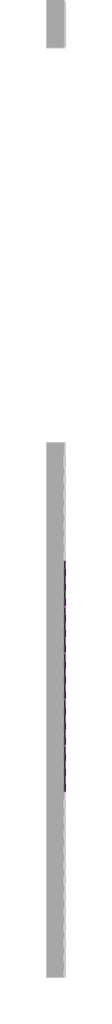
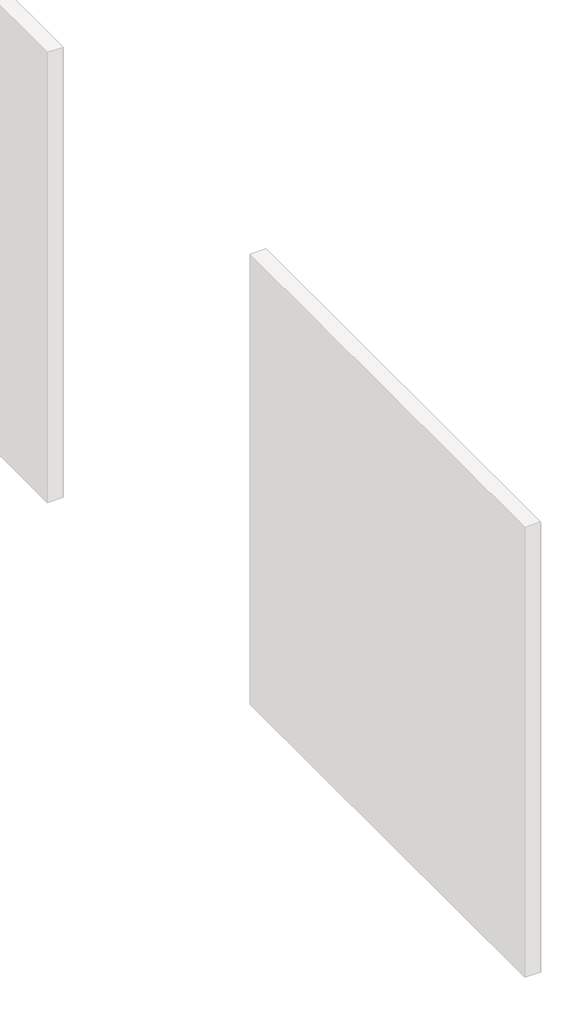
# One storey, part 3 of 45: 147 proxies.
"""IFC4 building model written with IfcOpenShell, lengths in millimetres."""

from ifc_helpers import new_model, si_unit, origin, place, context, project, spatial, transform, mapped, element, save
from components import generic_models_ab0f2c30, generic_models_1527efce

model = new_model("IFC4")

# Units and contexts
model_context = context("Model", 3, world=origin())
ifc_project = project(units=[si_unit("LENGTHUNIT", "METRE", prefix="MILLI")], contexts=[model_context])

# Site, building, storey
site = spatial("IfcSite", under=ifc_project)
building = spatial("IfcBuilding", under=site)
storey = spatial("IfcBuildingStorey", under=building, Name="PORTOBELLO - SHOWROOM", Elevation=0.0)

# Proxies
placement = place(None, origin())
generic_models_shape = generic_models_ab0f2c30(model_context)
element("IfcBuildingElementProxy", 1, Name="PBSHOP - HORIZONTES JAIPUR 6,5X23 : JAIPUR CHANDRA", ObjectType="PBSHOP - HORIZONTES JAIPUR 6,5X23 : JAIPUR CHANDRA", at=placement, inside=storey, context=model_context, shape_type="MappedRepresentation", body=[
    mapped(generic_models_shape, transform((63939.1036979, 3209.9760255, 34.5), x_axis=(0.0, 0.0, 1.0), y_axis=(0.0, -1.0, 0.0), z_axis=(1.0, 0.0, 0.0))),
])
element("IfcBuildingElementProxy", 2, Name="PBSHOP - HORIZONTES JAIPUR 6,5X23 : JAIPUR CHANDRA", ObjectType="PBSHOP - HORIZONTES JAIPUR 6,5X23 : JAIPUR CHANDRA", at=placement, inside=storey, context=model_context, shape_type="MappedRepresentation", body=[
    mapped(generic_models_shape, transform((63939.1036979, 3443.9760255, 34.5), x_axis=(0.0, 0.0, 1.0), y_axis=(0.0, -1.0, 0.0), z_axis=(1.0, 0.0, 0.0))),
])
element("IfcBuildingElementProxy", 3, Name="PBSHOP - HORIZONTES JAIPUR 6,5X23 : JAIPUR CHANDRA", ObjectType="PBSHOP - HORIZONTES JAIPUR 6,5X23 : JAIPUR CHANDRA", at=placement, inside=storey, context=model_context, shape_type="MappedRepresentation", body=[
    mapped(generic_models_shape, transform((63939.1036979, 3209.9760255, 103.5), x_axis=(0.0, 0.0, 1.0), y_axis=(0.0, -1.0, 0.0), z_axis=(1.0, 0.0, 0.0))),
])
element("IfcBuildingElementProxy", 4, Name="PBSHOP - HORIZONTES JAIPUR 6,5X23 : JAIPUR CHANDRA", ObjectType="PBSHOP - HORIZONTES JAIPUR 6,5X23 : JAIPUR CHANDRA", at=placement, inside=storey, context=model_context, shape_type="MappedRepresentation", body=[
    mapped(generic_models_shape, transform((63939.1036979, 3443.9760255, 103.5), x_axis=(0.0, 0.0, 1.0), y_axis=(0.0, -1.0, 0.0), z_axis=(1.0, 0.0, 0.0))),
])
element("IfcBuildingElementProxy", 5, Name="PBSHOP - HORIZONTES JAIPUR 6,5X23 : JAIPUR CHANDRA", ObjectType="PBSHOP - HORIZONTES JAIPUR 6,5X23 : JAIPUR CHANDRA", at=placement, inside=storey, context=model_context, shape_type="MappedRepresentation", body=[
    mapped(generic_models_shape, transform((63939.1036979, 3209.9760255, 172.5), x_axis=(0.0, 0.0, 1.0), y_axis=(0.0, -1.0, 0.0), z_axis=(1.0, 0.0, 0.0))),
])
element("IfcBuildingElementProxy", 6, Name="PBSHOP - HORIZONTES JAIPUR 6,5X23 : JAIPUR CHANDRA", ObjectType="PBSHOP - HORIZONTES JAIPUR 6,5X23 : JAIPUR CHANDRA", at=placement, inside=storey, context=model_context, shape_type="MappedRepresentation", body=[
    mapped(generic_models_shape, transform((63939.1036979, 3443.9760255, 172.5), x_axis=(0.0, 0.0, 1.0), y_axis=(0.0, -1.0, 0.0), z_axis=(1.0, 0.0, 0.0))),
])
element("IfcBuildingElementProxy", 7, Name="PBSHOP - HORIZONTES JAIPUR 6,5X23 : JAIPUR CHANDRA", ObjectType="PBSHOP - HORIZONTES JAIPUR 6,5X23 : JAIPUR CHANDRA", at=placement, inside=storey, context=model_context, shape_type="MappedRepresentation", body=[
    mapped(generic_models_shape, transform((63939.1036979, 3209.9760255, 241.5), x_axis=(0.0, 0.0, 1.0), y_axis=(0.0, -1.0, 0.0), z_axis=(1.0, 0.0, 0.0))),
])
element("IfcBuildingElementProxy", 8, Name="PBSHOP - HORIZONTES JAIPUR 6,5X23 : JAIPUR CHANDRA", ObjectType="PBSHOP - HORIZONTES JAIPUR 6,5X23 : JAIPUR CHANDRA", at=placement, inside=storey, context=model_context, shape_type="MappedRepresentation", body=[
    mapped(generic_models_shape, transform((63939.1036979, 3443.9760255, 241.5), x_axis=(0.0, 0.0, 1.0), y_axis=(0.0, -1.0, 0.0), z_axis=(1.0, 0.0, 0.0))),
])
element("IfcBuildingElementProxy", 9, Name="PBSHOP - HORIZONTES JAIPUR 6,5X23 : JAIPUR CHANDRA", ObjectType="PBSHOP - HORIZONTES JAIPUR 6,5X23 : JAIPUR CHANDRA", at=placement, inside=storey, context=model_context, shape_type="MappedRepresentation", body=[
    mapped(generic_models_shape, transform((63939.1036979, 3209.9760255, 310.5), x_axis=(0.0, 0.0, 1.0), y_axis=(0.0, -1.0, 0.0), z_axis=(1.0, 0.0, 0.0))),
])
element("IfcBuildingElementProxy", 10, Name="PBSHOP - HORIZONTES JAIPUR 6,5X23 : JAIPUR CHANDRA", ObjectType="PBSHOP - HORIZONTES JAIPUR 6,5X23 : JAIPUR CHANDRA", at=placement, inside=storey, context=model_context, shape_type="MappedRepresentation", body=[
    mapped(generic_models_shape, transform((63939.1036979, 3443.9760255, 310.5), x_axis=(0.0, 0.0, 1.0), y_axis=(0.0, -1.0, 0.0), z_axis=(1.0, 0.0, 0.0))),
])
element("IfcBuildingElementProxy", 11, Name="PBSHOP - HORIZONTES JAIPUR 6,5X23 : JAIPUR CHANDRA", ObjectType="PBSHOP - HORIZONTES JAIPUR 6,5X23 : JAIPUR CHANDRA", at=placement, inside=storey, context=model_context, shape_type="MappedRepresentation", body=[
    mapped(generic_models_shape, transform((63939.1036979, 3209.9760255, 379.5), x_axis=(0.0, 0.0, 1.0), y_axis=(0.0, -1.0, 0.0), z_axis=(1.0, 0.0, 0.0))),
])
element("IfcBuildingElementProxy", 12, Name="PBSHOP - HORIZONTES JAIPUR 6,5X23 : JAIPUR CHANDRA", ObjectType="PBSHOP - HORIZONTES JAIPUR 6,5X23 : JAIPUR CHANDRA", at=placement, inside=storey, context=model_context, shape_type="MappedRepresentation", body=[
    mapped(generic_models_shape, transform((63939.1036979, 3443.9760255, 379.5), x_axis=(0.0, 0.0, 1.0), y_axis=(0.0, -1.0, 0.0), z_axis=(1.0, 0.0, 0.0))),
])
element("IfcBuildingElementProxy", 13, Name="PBSHOP - HORIZONTES JAIPUR 6,5X23 : JAIPUR CHANDRA", ObjectType="PBSHOP - HORIZONTES JAIPUR 6,5X23 : JAIPUR CHANDRA", at=placement, inside=storey, context=model_context, shape_type="MappedRepresentation", body=[
    mapped(generic_models_shape, transform((63939.1036979, 3209.9760255, 448.5), x_axis=(0.0, 0.0, 1.0), y_axis=(0.0, -1.0, 0.0), z_axis=(1.0, 0.0, 0.0))),
])
element("IfcBuildingElementProxy", 14, Name="PBSHOP - HORIZONTES JAIPUR 6,5X23 : JAIPUR CHANDRA", ObjectType="PBSHOP - HORIZONTES JAIPUR 6,5X23 : JAIPUR CHANDRA", at=placement, inside=storey, context=model_context, shape_type="MappedRepresentation", body=[
    mapped(generic_models_shape, transform((63939.1036979, 3443.9760255, 448.5), x_axis=(0.0, 0.0, 1.0), y_axis=(0.0, -1.0, 0.0), z_axis=(1.0, 0.0, 0.0))),
])
element("IfcBuildingElementProxy", 15, Name="PBSHOP - HORIZONTES JAIPUR 6,5X23 : JAIPUR CHANDRA", ObjectType="PBSHOP - HORIZONTES JAIPUR 6,5X23 : JAIPUR CHANDRA", at=placement, inside=storey, context=model_context, shape_type="MappedRepresentation", body=[
    mapped(generic_models_shape, transform((63939.1036979, 3209.9760255, 517.5), x_axis=(0.0, 0.0, 1.0), y_axis=(0.0, -1.0, 0.0), z_axis=(1.0, 0.0, 0.0))),
])
element("IfcBuildingElementProxy", 16, Name="PBSHOP - HORIZONTES JAIPUR 6,5X23 : JAIPUR CHANDRA", ObjectType="PBSHOP - HORIZONTES JAIPUR 6,5X23 : JAIPUR CHANDRA", at=placement, inside=storey, context=model_context, shape_type="MappedRepresentation", body=[
    mapped(generic_models_shape, transform((63939.1036979, 3443.9760255, 517.5), x_axis=(0.0, 0.0, 1.0), y_axis=(0.0, -1.0, 0.0), z_axis=(1.0, 0.0, 0.0))),
])
element("IfcBuildingElementProxy", 17, Name="PBSHOP - HORIZONTES JAIPUR 6,5X23 : JAIPUR CHANDRA", ObjectType="PBSHOP - HORIZONTES JAIPUR 6,5X23 : JAIPUR CHANDRA", at=placement, inside=storey, context=model_context, shape_type="MappedRepresentation", body=[
    mapped(generic_models_shape, transform((63939.1036979, 3209.9760255, 586.5), x_axis=(0.0, 0.0, 1.0), y_axis=(0.0, -1.0, 0.0), z_axis=(1.0, 0.0, 0.0))),
])
element("IfcBuildingElementProxy", 18, Name="PBSHOP - HORIZONTES JAIPUR 6,5X23 : JAIPUR CHANDRA", ObjectType="PBSHOP - HORIZONTES JAIPUR 6,5X23 : JAIPUR CHANDRA", at=placement, inside=storey, context=model_context, shape_type="MappedRepresentation", body=[
    mapped(generic_models_shape, transform((63939.1036979, 3443.9760255, 586.5), x_axis=(0.0, 0.0, 1.0), y_axis=(0.0, -1.0, 0.0), z_axis=(1.0, 0.0, 0.0))),
])
element("IfcBuildingElementProxy", 19, Name="PBSHOP - HORIZONTES JAIPUR 6,5X23 : JAIPUR CHANDRA", ObjectType="PBSHOP - HORIZONTES JAIPUR 6,5X23 : JAIPUR CHANDRA", at=placement, inside=storey, context=model_context, shape_type="MappedRepresentation", body=[
    mapped(generic_models_shape, transform((63939.1036979, 3209.9760255, 655.5), x_axis=(0.0, 0.0, 1.0), y_axis=(0.0, -1.0, 0.0), z_axis=(1.0, 0.0, 0.0))),
])
element("IfcBuildingElementProxy", 20, Name="PBSHOP - HORIZONTES JAIPUR 6,5X23 : JAIPUR CHANDRA", ObjectType="PBSHOP - HORIZONTES JAIPUR 6,5X23 : JAIPUR CHANDRA", at=placement, inside=storey, context=model_context, shape_type="MappedRepresentation", body=[
    mapped(generic_models_shape, transform((63939.1036979, 3443.9760255, 655.5), x_axis=(0.0, 0.0, 1.0), y_axis=(0.0, -1.0, 0.0), z_axis=(1.0, 0.0, 0.0))),
])
element("IfcBuildingElementProxy", 21, Name="PBSHOP - HORIZONTES JAIPUR 6,5X23 : JAIPUR CHANDRA", ObjectType="PBSHOP - HORIZONTES JAIPUR 6,5X23 : JAIPUR CHANDRA", at=placement, inside=storey, context=model_context, shape_type="MappedRepresentation", body=[
    mapped(generic_models_shape, transform((63939.1036979, 3209.9760255, 724.5), x_axis=(0.0, 0.0, 1.0), y_axis=(0.0, -1.0, 0.0), z_axis=(1.0, 0.0, 0.0))),
])
element("IfcBuildingElementProxy", 22, Name="PBSHOP - HORIZONTES JAIPUR 6,5X23 : JAIPUR CHANDRA", ObjectType="PBSHOP - HORIZONTES JAIPUR 6,5X23 : JAIPUR CHANDRA", at=placement, inside=storey, context=model_context, shape_type="MappedRepresentation", body=[
    mapped(generic_models_shape, transform((63939.1036979, 2975.9760255, 1069.5), x_axis=(0.0, 0.0, 1.0), y_axis=(0.0, -1.0, 0.0), z_axis=(1.0, 0.0, 0.0))),
])
element("IfcBuildingElementProxy", 23, Name="PBSHOP - HORIZONTES JAIPUR 6,5X23 : JAIPUR CHANDRA", ObjectType="PBSHOP - HORIZONTES JAIPUR 6,5X23 : JAIPUR CHANDRA", at=placement, inside=storey, context=model_context, shape_type="MappedRepresentation", body=[
    mapped(generic_models_shape, transform((63939.1036979, 2039.9760255, 1138.5), x_axis=(0.0, 0.0, 1.0), y_axis=(0.0, -1.0, 0.0), z_axis=(1.0, 0.0, 0.0))),
])
element("IfcBuildingElementProxy", 24, Name="PBSHOP - HORIZONTES JAIPUR 6,5X23 : JAIPUR CHANDRA", ObjectType="PBSHOP - HORIZONTES JAIPUR 6,5X23 : JAIPUR CHANDRA", at=placement, inside=storey, context=model_context, shape_type="MappedRepresentation", body=[
    mapped(generic_models_shape, transform((63939.1036979, 2273.9760255, 1138.5), x_axis=(0.0, 0.0, 1.0), y_axis=(0.0, -1.0, 0.0), z_axis=(1.0, 0.0, 0.0))),
])
element("IfcBuildingElementProxy", 25, Name="PBSHOP - HORIZONTES JAIPUR 6,5X23 : JAIPUR CHANDRA", ObjectType="PBSHOP - HORIZONTES JAIPUR 6,5X23 : JAIPUR CHANDRA", at=placement, inside=storey, context=model_context, shape_type="MappedRepresentation", body=[
    mapped(generic_models_shape, transform((63939.1036979, 2507.9760255, 1138.5), x_axis=(0.0, 0.0, 1.0), y_axis=(0.0, -1.0, 0.0), z_axis=(1.0, 0.0, 0.0))),
])
element("IfcBuildingElementProxy", 26, Name="PBSHOP - HORIZONTES JAIPUR 6,5X23 : JAIPUR CHANDRA", ObjectType="PBSHOP - HORIZONTES JAIPUR 6,5X23 : JAIPUR CHANDRA", at=placement, inside=storey, context=model_context, shape_type="MappedRepresentation", body=[
    mapped(generic_models_shape, transform((63939.1036979, 2741.9760255, 1138.5), x_axis=(0.0, 0.0, 1.0), y_axis=(0.0, -1.0, 0.0), z_axis=(1.0, 0.0, 0.0))),
])
element("IfcBuildingElementProxy", 27, Name="PBSHOP - HORIZONTES JAIPUR 6,5X23 : JAIPUR CHANDRA", ObjectType="PBSHOP - HORIZONTES JAIPUR 6,5X23 : JAIPUR CHANDRA", at=placement, inside=storey, context=model_context, shape_type="MappedRepresentation", body=[
    mapped(generic_models_shape, transform((63939.1036979, 2975.9760255, 1138.5), x_axis=(0.0, 0.0, 1.0), y_axis=(0.0, -1.0, 0.0), z_axis=(1.0, 0.0, 0.0))),
])
element("IfcBuildingElementProxy", 28, Name="PBSHOP - HORIZONTES JAIPUR 6,5X23 : JAIPUR CHANDRA", ObjectType="PBSHOP - HORIZONTES JAIPUR 6,5X23 : JAIPUR CHANDRA", at=placement, inside=storey, context=model_context, shape_type="MappedRepresentation", body=[
    mapped(generic_models_shape, transform((63939.1036979, 2039.9760255, 1207.5), x_axis=(0.0, 0.0, 1.0), y_axis=(0.0, -1.0, 0.0), z_axis=(1.0, 0.0, 0.0))),
])
element("IfcBuildingElementProxy", 29, Name="PBSHOP - HORIZONTES JAIPUR 6,5X23 : JAIPUR CHANDRA", ObjectType="PBSHOP - HORIZONTES JAIPUR 6,5X23 : JAIPUR CHANDRA", at=placement, inside=storey, context=model_context, shape_type="MappedRepresentation", body=[
    mapped(generic_models_shape, transform((63939.1036979, 2273.9760255, 1207.5), x_axis=(0.0, 0.0, 1.0), y_axis=(0.0, -1.0, 0.0), z_axis=(1.0, 0.0, 0.0))),
])
element("IfcBuildingElementProxy", 30, Name="PBSHOP - HORIZONTES JAIPUR 6,5X23 : JAIPUR CHANDRA", ObjectType="PBSHOP - HORIZONTES JAIPUR 6,5X23 : JAIPUR CHANDRA", at=placement, inside=storey, context=model_context, shape_type="MappedRepresentation", body=[
    mapped(generic_models_shape, transform((63939.1036979, 2507.9760255, 1207.5), x_axis=(0.0, 0.0, 1.0), y_axis=(0.0, -1.0, 0.0), z_axis=(1.0, 0.0, 0.0))),
])
element("IfcBuildingElementProxy", 31, Name="PBSHOP - HORIZONTES JAIPUR 6,5X23 : JAIPUR CHANDRA", ObjectType="PBSHOP - HORIZONTES JAIPUR 6,5X23 : JAIPUR CHANDRA", at=placement, inside=storey, context=model_context, shape_type="MappedRepresentation", body=[
    mapped(generic_models_shape, transform((63939.1036979, 2741.9760255, 1207.5), x_axis=(0.0, 0.0, 1.0), y_axis=(0.0, -1.0, 0.0), z_axis=(1.0, 0.0, 0.0))),
])
element("IfcBuildingElementProxy", 32, Name="PBSHOP - HORIZONTES JAIPUR 6,5X23 : JAIPUR CHANDRA", ObjectType="PBSHOP - HORIZONTES JAIPUR 6,5X23 : JAIPUR CHANDRA", at=placement, inside=storey, context=model_context, shape_type="MappedRepresentation", body=[
    mapped(generic_models_shape, transform((63939.1036979, 2975.9760255, 1207.5), x_axis=(0.0, 0.0, 1.0), y_axis=(0.0, -1.0, 0.0), z_axis=(1.0, 0.0, 0.0))),
])
element("IfcBuildingElementProxy", 33, Name="PBSHOP - HORIZONTES JAIPUR 6,5X23 : JAIPUR CHANDRA", ObjectType="PBSHOP - HORIZONTES JAIPUR 6,5X23 : JAIPUR CHANDRA", at=placement, inside=storey, context=model_context, shape_type="MappedRepresentation", body=[
    mapped(generic_models_shape, transform((63939.1036979, 2039.9760255, 1276.5), x_axis=(0.0, 0.0, 1.0), y_axis=(0.0, -1.0, 0.0), z_axis=(1.0, 0.0, 0.0))),
])
element("IfcBuildingElementProxy", 34, Name="PBSHOP - HORIZONTES JAIPUR 6,5X23 : JAIPUR CHANDRA", ObjectType="PBSHOP - HORIZONTES JAIPUR 6,5X23 : JAIPUR CHANDRA", at=placement, inside=storey, context=model_context, shape_type="MappedRepresentation", body=[
    mapped(generic_models_shape, transform((63939.1036979, 2273.9760255, 1276.5), x_axis=(0.0, 0.0, 1.0), y_axis=(0.0, -1.0, 0.0), z_axis=(1.0, 0.0, 0.0))),
])
element("IfcBuildingElementProxy", 35, Name="PBSHOP - HORIZONTES JAIPUR 6,5X23 : JAIPUR CHANDRA", ObjectType="PBSHOP - HORIZONTES JAIPUR 6,5X23 : JAIPUR CHANDRA", at=placement, inside=storey, context=model_context, shape_type="MappedRepresentation", body=[
    mapped(generic_models_shape, transform((63939.1036979, 2507.9760255, 1276.5), x_axis=(0.0, 0.0, 1.0), y_axis=(0.0, -1.0, 0.0), z_axis=(1.0, 0.0, 0.0))),
])
element("IfcBuildingElementProxy", 36, Name="PBSHOP - HORIZONTES JAIPUR 6,5X23 : JAIPUR CHANDRA", ObjectType="PBSHOP - HORIZONTES JAIPUR 6,5X23 : JAIPUR CHANDRA", at=placement, inside=storey, context=model_context, shape_type="MappedRepresentation", body=[
    mapped(generic_models_shape, transform((63939.1036979, 2741.9760255, 1276.5), x_axis=(0.0, 0.0, 1.0), y_axis=(0.0, -1.0, 0.0), z_axis=(1.0, 0.0, 0.0))),
])
element("IfcBuildingElementProxy", 37, Name="PBSHOP - HORIZONTES JAIPUR 6,5X23 : JAIPUR CHANDRA", ObjectType="PBSHOP - HORIZONTES JAIPUR 6,5X23 : JAIPUR CHANDRA", at=placement, inside=storey, context=model_context, shape_type="MappedRepresentation", body=[
    mapped(generic_models_shape, transform((63939.1036979, 2975.9760255, 1276.5), x_axis=(0.0, 0.0, 1.0), y_axis=(0.0, -1.0, 0.0), z_axis=(1.0, 0.0, 0.0))),
])
element("IfcBuildingElementProxy", 38, Name="PBSHOP - HORIZONTES JAIPUR 6,5X23 : JAIPUR CHANDRA", ObjectType="PBSHOP - HORIZONTES JAIPUR 6,5X23 : JAIPUR CHANDRA", at=placement, inside=storey, context=model_context, shape_type="MappedRepresentation", body=[
    mapped(generic_models_shape, transform((63939.1036979, 2039.9760255, 1345.5), x_axis=(0.0, 0.0, 1.0), y_axis=(0.0, -1.0, 0.0), z_axis=(1.0, 0.0, 0.0))),
])
element("IfcBuildingElementProxy", 39, Name="PBSHOP - HORIZONTES JAIPUR 6,5X23 : JAIPUR CHANDRA", ObjectType="PBSHOP - HORIZONTES JAIPUR 6,5X23 : JAIPUR CHANDRA", at=placement, inside=storey, context=model_context, shape_type="MappedRepresentation", body=[
    mapped(generic_models_shape, transform((63939.1036979, 2273.9760255, 1345.5), x_axis=(0.0, 0.0, 1.0), y_axis=(0.0, -1.0, 0.0), z_axis=(1.0, 0.0, 0.0))),
])
element("IfcBuildingElementProxy", 40, Name="PBSHOP - HORIZONTES JAIPUR 6,5X23 : JAIPUR CHANDRA", ObjectType="PBSHOP - HORIZONTES JAIPUR 6,5X23 : JAIPUR CHANDRA", at=placement, inside=storey, context=model_context, shape_type="MappedRepresentation", body=[
    mapped(generic_models_shape, transform((63939.1036979, 2507.9760255, 1345.5), x_axis=(0.0, 0.0, 1.0), y_axis=(0.0, -1.0, 0.0), z_axis=(1.0, 0.0, 0.0))),
])
element("IfcBuildingElementProxy", 41, Name="PBSHOP - HORIZONTES JAIPUR 6,5X23 : JAIPUR CHANDRA", ObjectType="PBSHOP - HORIZONTES JAIPUR 6,5X23 : JAIPUR CHANDRA", at=placement, inside=storey, context=model_context, shape_type="MappedRepresentation", body=[
    mapped(generic_models_shape, transform((63939.1036979, 2741.9760255, 1345.5), x_axis=(0.0, 0.0, 1.0), y_axis=(0.0, -1.0, 0.0), z_axis=(1.0, 0.0, 0.0))),
])
element("IfcBuildingElementProxy", 42, Name="PBSHOP - HORIZONTES JAIPUR 6,5X23 : JAIPUR CHANDRA", ObjectType="PBSHOP - HORIZONTES JAIPUR 6,5X23 : JAIPUR CHANDRA", at=placement, inside=storey, context=model_context, shape_type="MappedRepresentation", body=[
    mapped(generic_models_shape, transform((63939.1036979, 2975.9760255, 1345.5), x_axis=(0.0, 0.0, 1.0), y_axis=(0.0, -1.0, 0.0), z_axis=(1.0, 0.0, 0.0))),
])
element("IfcBuildingElementProxy", 43, Name="PBSHOP - HORIZONTES JAIPUR 6,5X23 : JAIPUR CHANDRA", ObjectType="PBSHOP - HORIZONTES JAIPUR 6,5X23 : JAIPUR CHANDRA", at=placement, inside=storey, context=model_context, shape_type="MappedRepresentation", body=[
    mapped(generic_models_shape, transform((63939.1036979, 2039.9760255, 1414.5), x_axis=(0.0, 0.0, 1.0), y_axis=(0.0, -1.0, 0.0), z_axis=(1.0, 0.0, 0.0))),
])
element("IfcBuildingElementProxy", 44, Name="PBSHOP - HORIZONTES JAIPUR 6,5X23 : JAIPUR CHANDRA", ObjectType="PBSHOP - HORIZONTES JAIPUR 6,5X23 : JAIPUR CHANDRA", at=placement, inside=storey, context=model_context, shape_type="MappedRepresentation", body=[
    mapped(generic_models_shape, transform((63939.1036979, 2273.9760255, 1414.5), x_axis=(0.0, 0.0, 1.0), y_axis=(0.0, -1.0, 0.0), z_axis=(1.0, 0.0, 0.0))),
])
element("IfcBuildingElementProxy", 45, Name="PBSHOP - HORIZONTES JAIPUR 6,5X23 : JAIPUR CHANDRA", ObjectType="PBSHOP - HORIZONTES JAIPUR 6,5X23 : JAIPUR CHANDRA", at=placement, inside=storey, context=model_context, shape_type="MappedRepresentation", body=[
    mapped(generic_models_shape, transform((63939.1036979, 2507.9760255, 1414.5), x_axis=(0.0, 0.0, 1.0), y_axis=(0.0, -1.0, 0.0), z_axis=(1.0, 0.0, 0.0))),
])
element("IfcBuildingElementProxy", 46, Name="PBSHOP - HORIZONTES JAIPUR 6,5X23 : JAIPUR CHANDRA", ObjectType="PBSHOP - HORIZONTES JAIPUR 6,5X23 : JAIPUR CHANDRA", at=placement, inside=storey, context=model_context, shape_type="MappedRepresentation", body=[
    mapped(generic_models_shape, transform((63939.1036979, 2741.9760255, 1414.5), x_axis=(0.0, 0.0, 1.0), y_axis=(0.0, -1.0, 0.0), z_axis=(1.0, 0.0, 0.0))),
])
element("IfcBuildingElementProxy", 47, Name="PBSHOP - HORIZONTES JAIPUR 6,5X23 : JAIPUR CHANDRA", ObjectType="PBSHOP - HORIZONTES JAIPUR 6,5X23 : JAIPUR CHANDRA", at=placement, inside=storey, context=model_context, shape_type="MappedRepresentation", body=[
    mapped(generic_models_shape, transform((63939.1036979, 2975.9760255, 1414.5), x_axis=(0.0, 0.0, 1.0), y_axis=(0.0, -1.0, 0.0), z_axis=(1.0, 0.0, 0.0))),
])
element("IfcBuildingElementProxy", 48, Name="PBSHOP - HORIZONTES JAIPUR 6,5X23 : JAIPUR CHANDRA", ObjectType="PBSHOP - HORIZONTES JAIPUR 6,5X23 : JAIPUR CHANDRA", at=placement, inside=storey, context=model_context, shape_type="MappedRepresentation", body=[
    mapped(generic_models_shape, transform((63939.1036979, 2039.9760255, 1483.5), x_axis=(0.0, 0.0, 1.0), y_axis=(0.0, -1.0, 0.0), z_axis=(1.0, 0.0, 0.0))),
])
element("IfcBuildingElementProxy", 49, Name="PBSHOP - HORIZONTES JAIPUR 6,5X23 : JAIPUR CHANDRA", ObjectType="PBSHOP - HORIZONTES JAIPUR 6,5X23 : JAIPUR CHANDRA", at=placement, inside=storey, context=model_context, shape_type="MappedRepresentation", body=[
    mapped(generic_models_shape, transform((63939.1036979, 2273.9760255, 1483.5), x_axis=(0.0, 0.0, 1.0), y_axis=(0.0, -1.0, 0.0), z_axis=(1.0, 0.0, 0.0))),
])
element("IfcBuildingElementProxy", 50, Name="PBSHOP - HORIZONTES JAIPUR 6,5X23 : JAIPUR CHANDRA", ObjectType="PBSHOP - HORIZONTES JAIPUR 6,5X23 : JAIPUR CHANDRA", at=placement, inside=storey, context=model_context, shape_type="MappedRepresentation", body=[
    mapped(generic_models_shape, transform((63939.1036979, 2507.9760255, 1483.5), x_axis=(0.0, 0.0, 1.0), y_axis=(0.0, -1.0, 0.0), z_axis=(1.0, 0.0, 0.0))),
])
element("IfcBuildingElementProxy", 51, Name="PBSHOP - HORIZONTES JAIPUR 6,5X23 : JAIPUR CHANDRA", ObjectType="PBSHOP - HORIZONTES JAIPUR 6,5X23 : JAIPUR CHANDRA", at=placement, inside=storey, context=model_context, shape_type="MappedRepresentation", body=[
    mapped(generic_models_shape, transform((63939.1036979, 2741.9760255, 1483.5), x_axis=(0.0, 0.0, 1.0), y_axis=(0.0, -1.0, 0.0), z_axis=(1.0, 0.0, 0.0))),
])
element("IfcBuildingElementProxy", 52, Name="PBSHOP - HORIZONTES JAIPUR 6,5X23 : JAIPUR CHANDRA", ObjectType="PBSHOP - HORIZONTES JAIPUR 6,5X23 : JAIPUR CHANDRA", at=placement, inside=storey, context=model_context, shape_type="MappedRepresentation", body=[
    mapped(generic_models_shape, transform((63939.1036979, 2975.9760255, 1483.5), x_axis=(0.0, 0.0, 1.0), y_axis=(0.0, -1.0, 0.0), z_axis=(1.0, 0.0, 0.0))),
])
element("IfcBuildingElementProxy", 53, Name="PBSHOP - HORIZONTES JAIPUR 6,5X23 : JAIPUR CHANDRA", ObjectType="PBSHOP - HORIZONTES JAIPUR 6,5X23 : JAIPUR CHANDRA", at=placement, inside=storey, context=model_context, shape_type="MappedRepresentation", body=[
    mapped(generic_models_shape, transform((63939.1036979, 2039.9760255, 1552.5), x_axis=(0.0, 0.0, 1.0), y_axis=(0.0, -1.0, 0.0), z_axis=(1.0, 0.0, 0.0))),
])
element("IfcBuildingElementProxy", 54, Name="PBSHOP - HORIZONTES JAIPUR 6,5X23 : JAIPUR CHANDRA", ObjectType="PBSHOP - HORIZONTES JAIPUR 6,5X23 : JAIPUR CHANDRA", at=placement, inside=storey, context=model_context, shape_type="MappedRepresentation", body=[
    mapped(generic_models_shape, transform((63939.1036979, 2273.9760255, 1552.5), x_axis=(0.0, 0.0, 1.0), y_axis=(0.0, -1.0, 0.0), z_axis=(1.0, 0.0, 0.0))),
])
element("IfcBuildingElementProxy", 55, Name="PBSHOP - HORIZONTES JAIPUR 6,5X23 : JAIPUR CHANDRA", ObjectType="PBSHOP - HORIZONTES JAIPUR 6,5X23 : JAIPUR CHANDRA", at=placement, inside=storey, context=model_context, shape_type="MappedRepresentation", body=[
    mapped(generic_models_shape, transform((63939.1036979, 2507.9760255, 1552.5), x_axis=(0.0, 0.0, 1.0), y_axis=(0.0, -1.0, 0.0), z_axis=(1.0, 0.0, 0.0))),
])
element("IfcBuildingElementProxy", 56, Name="PBSHOP - HORIZONTES JAIPUR 6,5X23 : JAIPUR CHANDRA", ObjectType="PBSHOP - HORIZONTES JAIPUR 6,5X23 : JAIPUR CHANDRA", at=placement, inside=storey, context=model_context, shape_type="MappedRepresentation", body=[
    mapped(generic_models_shape, transform((63939.1036979, 2741.9760255, 1552.5), x_axis=(0.0, 0.0, 1.0), y_axis=(0.0, -1.0, 0.0), z_axis=(1.0, 0.0, 0.0))),
])
element("IfcBuildingElementProxy", 57, Name="PBSHOP - HORIZONTES JAIPUR 6,5X23 : JAIPUR CHANDRA", ObjectType="PBSHOP - HORIZONTES JAIPUR 6,5X23 : JAIPUR CHANDRA", at=placement, inside=storey, context=model_context, shape_type="MappedRepresentation", body=[
    mapped(generic_models_shape, transform((63939.1036979, 2975.9760255, 1552.5), x_axis=(0.0, 0.0, 1.0), y_axis=(0.0, -1.0, 0.0), z_axis=(1.0, 0.0, 0.0))),
])
element("IfcBuildingElementProxy", 58, Name="PBSHOP - HORIZONTES JAIPUR 6,5X23 : JAIPUR CHANDRA", ObjectType="PBSHOP - HORIZONTES JAIPUR 6,5X23 : JAIPUR CHANDRA", at=placement, inside=storey, context=model_context, shape_type="MappedRepresentation", body=[
    mapped(generic_models_shape, transform((63939.1036979, 2039.9760255, 1621.5), x_axis=(0.0, 0.0, 1.0), y_axis=(0.0, -1.0, 0.0), z_axis=(1.0, 0.0, 0.0))),
])
element("IfcBuildingElementProxy", 59, Name="PBSHOP - HORIZONTES JAIPUR 6,5X23 : JAIPUR CHANDRA", ObjectType="PBSHOP - HORIZONTES JAIPUR 6,5X23 : JAIPUR CHANDRA", at=placement, inside=storey, context=model_context, shape_type="MappedRepresentation", body=[
    mapped(generic_models_shape, transform((63939.1036979, 2273.9760255, 1621.5), x_axis=(0.0, 0.0, 1.0), y_axis=(0.0, -1.0, 0.0), z_axis=(1.0, 0.0, 0.0))),
])
element("IfcBuildingElementProxy", 60, Name="PBSHOP - HORIZONTES JAIPUR 6,5X23 : JAIPUR CHANDRA", ObjectType="PBSHOP - HORIZONTES JAIPUR 6,5X23 : JAIPUR CHANDRA", at=placement, inside=storey, context=model_context, shape_type="MappedRepresentation", body=[
    mapped(generic_models_shape, transform((63939.1036979, 2507.9760255, 1621.5), x_axis=(0.0, 0.0, 1.0), y_axis=(0.0, -1.0, 0.0), z_axis=(1.0, 0.0, 0.0))),
])
element("IfcBuildingElementProxy", 61, Name="PBSHOP - HORIZONTES JAIPUR 6,5X23 : JAIPUR CHANDRA", ObjectType="PBSHOP - HORIZONTES JAIPUR 6,5X23 : JAIPUR CHANDRA", at=placement, inside=storey, context=model_context, shape_type="MappedRepresentation", body=[
    mapped(generic_models_shape, transform((63939.1036979, 2741.9760255, 1621.5), x_axis=(0.0, 0.0, 1.0), y_axis=(0.0, -1.0, 0.0), z_axis=(1.0, 0.0, 0.0))),
])
element("IfcBuildingElementProxy", 62, Name="PBSHOP - HORIZONTES JAIPUR 6,5X23 : JAIPUR CHANDRA", ObjectType="PBSHOP - HORIZONTES JAIPUR 6,5X23 : JAIPUR CHANDRA", at=placement, inside=storey, context=model_context, shape_type="MappedRepresentation", body=[
    mapped(generic_models_shape, transform((63939.1036979, 2975.9760255, 1621.5), x_axis=(0.0, 0.0, 1.0), y_axis=(0.0, -1.0, 0.0), z_axis=(1.0, 0.0, 0.0))),
])
element("IfcBuildingElementProxy", 63, Name="PBSHOP - HORIZONTES JAIPUR 6,5X23 : JAIPUR CHANDRA", ObjectType="PBSHOP - HORIZONTES JAIPUR 6,5X23 : JAIPUR CHANDRA", at=placement, inside=storey, context=model_context, shape_type="MappedRepresentation", body=[
    mapped(generic_models_shape, transform((63939.1036979, 2039.9760255, 1690.5), x_axis=(0.0, 0.0, 1.0), y_axis=(0.0, -1.0, 0.0), z_axis=(1.0, 0.0, 0.0))),
])
element("IfcBuildingElementProxy", 64, Name="PBSHOP - HORIZONTES JAIPUR 6,5X23 : JAIPUR CHANDRA", ObjectType="PBSHOP - HORIZONTES JAIPUR 6,5X23 : JAIPUR CHANDRA", at=placement, inside=storey, context=model_context, shape_type="MappedRepresentation", body=[
    mapped(generic_models_shape, transform((63939.1036979, 2273.9760255, 1690.5), x_axis=(0.0, 0.0, 1.0), y_axis=(0.0, -1.0, 0.0), z_axis=(1.0, 0.0, 0.0))),
])
element("IfcBuildingElementProxy", 65, Name="PBSHOP - HORIZONTES JAIPUR 6,5X23 : JAIPUR CHANDRA", ObjectType="PBSHOP - HORIZONTES JAIPUR 6,5X23 : JAIPUR CHANDRA", at=placement, inside=storey, context=model_context, shape_type="MappedRepresentation", body=[
    mapped(generic_models_shape, transform((63939.1036979, 2507.9760255, 1690.5), x_axis=(0.0, 0.0, 1.0), y_axis=(0.0, -1.0, 0.0), z_axis=(1.0, 0.0, 0.0))),
])
element("IfcBuildingElementProxy", 66, Name="PBSHOP - HORIZONTES JAIPUR 6,5X23 : JAIPUR CHANDRA", ObjectType="PBSHOP - HORIZONTES JAIPUR 6,5X23 : JAIPUR CHANDRA", at=placement, inside=storey, context=model_context, shape_type="MappedRepresentation", body=[
    mapped(generic_models_shape, transform((63939.1036979, 2741.9760255, 1690.5), x_axis=(0.0, 0.0, 1.0), y_axis=(0.0, -1.0, 0.0), z_axis=(1.0, 0.0, 0.0))),
])
element("IfcBuildingElementProxy", 67, Name="PBSHOP - HORIZONTES JAIPUR 6,5X23 : JAIPUR CHANDRA", ObjectType="PBSHOP - HORIZONTES JAIPUR 6,5X23 : JAIPUR CHANDRA", at=placement, inside=storey, context=model_context, shape_type="MappedRepresentation", body=[
    mapped(generic_models_shape, transform((63939.1036979, 2975.9760255, 1690.5), x_axis=(0.0, 0.0, 1.0), y_axis=(0.0, -1.0, 0.0), z_axis=(1.0, 0.0, 0.0))),
])
element("IfcBuildingElementProxy", 68, Name="PBSHOP - HORIZONTES JAIPUR 6,5X23 : JAIPUR CHANDRA", ObjectType="PBSHOP - HORIZONTES JAIPUR 6,5X23 : JAIPUR CHANDRA", at=placement, inside=storey, context=model_context, shape_type="MappedRepresentation", body=[
    mapped(generic_models_shape, transform((63939.1036979, 2039.9760255, 1759.5), x_axis=(0.0, 0.0, 1.0), y_axis=(0.0, -1.0, 0.0), z_axis=(1.0, 0.0, 0.0))),
])
element("IfcBuildingElementProxy", 69, Name="PBSHOP - HORIZONTES JAIPUR 6,5X23 : JAIPUR CHANDRA", ObjectType="PBSHOP - HORIZONTES JAIPUR 6,5X23 : JAIPUR CHANDRA", at=placement, inside=storey, context=model_context, shape_type="MappedRepresentation", body=[
    mapped(generic_models_shape, transform((63939.1036979, 2273.9760255, 1759.5), x_axis=(0.0, 0.0, 1.0), y_axis=(0.0, -1.0, 0.0), z_axis=(1.0, 0.0, 0.0))),
])
element("IfcBuildingElementProxy", 70, Name="PBSHOP - HORIZONTES JAIPUR 6,5X23 : JAIPUR CHANDRA", ObjectType="PBSHOP - HORIZONTES JAIPUR 6,5X23 : JAIPUR CHANDRA", at=placement, inside=storey, context=model_context, shape_type="MappedRepresentation", body=[
    mapped(generic_models_shape, transform((63939.1036979, 2507.9760255, 1759.5), x_axis=(0.0, 0.0, 1.0), y_axis=(0.0, -1.0, 0.0), z_axis=(1.0, 0.0, 0.0))),
])
element("IfcBuildingElementProxy", 71, Name="PBSHOP - HORIZONTES JAIPUR 6,5X23 : JAIPUR CHANDRA", ObjectType="PBSHOP - HORIZONTES JAIPUR 6,5X23 : JAIPUR CHANDRA", at=placement, inside=storey, context=model_context, shape_type="MappedRepresentation", body=[
    mapped(generic_models_shape, transform((63939.1036979, 2741.9760255, 1759.5), x_axis=(0.0, 0.0, 1.0), y_axis=(0.0, -1.0, 0.0), z_axis=(1.0, 0.0, 0.0))),
])
element("IfcBuildingElementProxy", 72, Name="PBSHOP - HORIZONTES JAIPUR 6,5X23 : JAIPUR CHANDRA", ObjectType="PBSHOP - HORIZONTES JAIPUR 6,5X23 : JAIPUR CHANDRA", at=placement, inside=storey, context=model_context, shape_type="MappedRepresentation", body=[
    mapped(generic_models_shape, transform((63939.1036979, 2975.9760255, 1759.5), x_axis=(0.0, 0.0, 1.0), y_axis=(0.0, -1.0, 0.0), z_axis=(1.0, 0.0, 0.0))),
])
element("IfcBuildingElementProxy", 73, Name="PBSHOP - HORIZONTES JAIPUR 6,5X23 : JAIPUR CHANDRA", ObjectType="PBSHOP - HORIZONTES JAIPUR 6,5X23 : JAIPUR CHANDRA", at=placement, inside=storey, context=model_context, shape_type="MappedRepresentation", body=[
    mapped(generic_models_shape, transform((63939.1036979, 2039.9760255, 1828.5), x_axis=(0.0, 0.0, 1.0), y_axis=(0.0, -1.0, 0.0), z_axis=(1.0, 0.0, 0.0))),
])
element("IfcBuildingElementProxy", 74, Name="PBSHOP - HORIZONTES JAIPUR 6,5X23 : JAIPUR CHANDRA", ObjectType="PBSHOP - HORIZONTES JAIPUR 6,5X23 : JAIPUR CHANDRA", at=placement, inside=storey, context=model_context, shape_type="MappedRepresentation", body=[
    mapped(generic_models_shape, transform((63939.1036979, 2273.9760255, 1828.5), x_axis=(0.0, 0.0, 1.0), y_axis=(0.0, -1.0, 0.0), z_axis=(1.0, 0.0, 0.0))),
])
element("IfcBuildingElementProxy", 75, Name="PBSHOP - HORIZONTES JAIPUR 6,5X23 : JAIPUR CHANDRA", ObjectType="PBSHOP - HORIZONTES JAIPUR 6,5X23 : JAIPUR CHANDRA", at=placement, inside=storey, context=model_context, shape_type="MappedRepresentation", body=[
    mapped(generic_models_shape, transform((63939.1036979, 2507.9760255, 1828.5), x_axis=(0.0, 0.0, 1.0), y_axis=(0.0, -1.0, 0.0), z_axis=(1.0, 0.0, 0.0))),
])
element("IfcBuildingElementProxy", 76, Name="PBSHOP - HORIZONTES JAIPUR 6,5X23 : JAIPUR CHANDRA", ObjectType="PBSHOP - HORIZONTES JAIPUR 6,5X23 : JAIPUR CHANDRA", at=placement, inside=storey, context=model_context, shape_type="MappedRepresentation", body=[
    mapped(generic_models_shape, transform((63939.1036979, 2741.9760255, 1828.5), x_axis=(0.0, 0.0, 1.0), y_axis=(0.0, -1.0, 0.0), z_axis=(1.0, 0.0, 0.0))),
])
element("IfcBuildingElementProxy", 77, Name="PBSHOP - HORIZONTES JAIPUR 6,5X23 : JAIPUR CHANDRA", ObjectType="PBSHOP - HORIZONTES JAIPUR 6,5X23 : JAIPUR CHANDRA", at=placement, inside=storey, context=model_context, shape_type="MappedRepresentation", body=[
    mapped(generic_models_shape, transform((63939.1036979, 2975.9760255, 1828.5), x_axis=(0.0, 0.0, 1.0), y_axis=(0.0, -1.0, 0.0), z_axis=(1.0, 0.0, 0.0))),
])
element("IfcBuildingElementProxy", 78, Name="PBSHOP - HORIZONTES JAIPUR 6,5X23 : JAIPUR CHANDRA", ObjectType="PBSHOP - HORIZONTES JAIPUR 6,5X23 : JAIPUR CHANDRA", at=placement, inside=storey, context=model_context, shape_type="MappedRepresentation", body=[
    mapped(generic_models_shape, transform((63939.1036979, 2039.9760255, 1897.5), x_axis=(0.0, 0.0, 1.0), y_axis=(0.0, -1.0, 0.0), z_axis=(1.0, 0.0, 0.0))),
])
element("IfcBuildingElementProxy", 79, Name="PBSHOP - HORIZONTES JAIPUR 6,5X23 : JAIPUR CHANDRA", ObjectType="PBSHOP - HORIZONTES JAIPUR 6,5X23 : JAIPUR CHANDRA", at=placement, inside=storey, context=model_context, shape_type="MappedRepresentation", body=[
    mapped(generic_models_shape, transform((63939.1036979, 2273.9760255, 1897.5), x_axis=(0.0, 0.0, 1.0), y_axis=(0.0, -1.0, 0.0), z_axis=(1.0, 0.0, 0.0))),
])
element("IfcBuildingElementProxy", 80, Name="PBSHOP - HORIZONTES JAIPUR 6,5X23 : JAIPUR CHANDRA", ObjectType="PBSHOP - HORIZONTES JAIPUR 6,5X23 : JAIPUR CHANDRA", at=placement, inside=storey, context=model_context, shape_type="MappedRepresentation", body=[
    mapped(generic_models_shape, transform((63939.1036979, 2507.9760255, 1897.5), x_axis=(0.0, 0.0, 1.0), y_axis=(0.0, -1.0, 0.0), z_axis=(1.0, 0.0, 0.0))),
])
element("IfcBuildingElementProxy", 81, Name="PBSHOP - HORIZONTES JAIPUR 6,5X23 : JAIPUR CHANDRA", ObjectType="PBSHOP - HORIZONTES JAIPUR 6,5X23 : JAIPUR CHANDRA", at=placement, inside=storey, context=model_context, shape_type="MappedRepresentation", body=[
    mapped(generic_models_shape, transform((63939.1036979, 2741.9760255, 1897.5), x_axis=(0.0, 0.0, 1.0), y_axis=(0.0, -1.0, 0.0), z_axis=(1.0, 0.0, 0.0))),
])
element("IfcBuildingElementProxy", 82, Name="PBSHOP - HORIZONTES JAIPUR 6,5X23 : JAIPUR CHANDRA", ObjectType="PBSHOP - HORIZONTES JAIPUR 6,5X23 : JAIPUR CHANDRA", at=placement, inside=storey, context=model_context, shape_type="MappedRepresentation", body=[
    mapped(generic_models_shape, transform((63939.1036979, 2975.9760255, 1897.5), x_axis=(0.0, 0.0, 1.0), y_axis=(0.0, -1.0, 0.0), z_axis=(1.0, 0.0, 0.0))),
])
element("IfcBuildingElementProxy", 83, Name="PBSHOP - HORIZONTES JAIPUR 6,5X23 : JAIPUR CHANDRA", ObjectType="PBSHOP - HORIZONTES JAIPUR 6,5X23 : JAIPUR CHANDRA", at=placement, inside=storey, context=model_context, shape_type="MappedRepresentation", body=[
    mapped(generic_models_shape, transform((63939.1036979, 2039.9760255, 1966.5), x_axis=(0.0, 0.0, 1.0), y_axis=(0.0, -1.0, 0.0), z_axis=(1.0, 0.0, 0.0))),
])
element("IfcBuildingElementProxy", 84, Name="PBSHOP - HORIZONTES JAIPUR 6,5X23 : JAIPUR CHANDRA", ObjectType="PBSHOP - HORIZONTES JAIPUR 6,5X23 : JAIPUR CHANDRA", at=placement, inside=storey, context=model_context, shape_type="MappedRepresentation", body=[
    mapped(generic_models_shape, transform((63939.1036979, 2273.9760255, 1966.5), x_axis=(0.0, 0.0, 1.0), y_axis=(0.0, -1.0, 0.0), z_axis=(1.0, 0.0, 0.0))),
])
element("IfcBuildingElementProxy", 85, Name="PBSHOP - HORIZONTES JAIPUR 6,5X23 : JAIPUR CHANDRA", ObjectType="PBSHOP - HORIZONTES JAIPUR 6,5X23 : JAIPUR CHANDRA", at=placement, inside=storey, context=model_context, shape_type="MappedRepresentation", body=[
    mapped(generic_models_shape, transform((63939.1036979, 2507.9760255, 1966.5), x_axis=(0.0, 0.0, 1.0), y_axis=(0.0, -1.0, 0.0), z_axis=(1.0, 0.0, 0.0))),
])
element("IfcBuildingElementProxy", 86, Name="PBSHOP - HORIZONTES JAIPUR 6,5X23 : JAIPUR CHANDRA", ObjectType="PBSHOP - HORIZONTES JAIPUR 6,5X23 : JAIPUR CHANDRA", at=placement, inside=storey, context=model_context, shape_type="MappedRepresentation", body=[
    mapped(generic_models_shape, transform((63939.1036979, 2741.9760255, 1966.5), x_axis=(0.0, 0.0, 1.0), y_axis=(0.0, -1.0, 0.0), z_axis=(1.0, 0.0, 0.0))),
])
element("IfcBuildingElementProxy", 87, Name="PBSHOP - HORIZONTES JAIPUR 6,5X23 : JAIPUR CHANDRA", ObjectType="PBSHOP - HORIZONTES JAIPUR 6,5X23 : JAIPUR CHANDRA", at=placement, inside=storey, context=model_context, shape_type="MappedRepresentation", body=[
    mapped(generic_models_shape, transform((63939.1036979, 2975.9760255, 1966.5), x_axis=(0.0, 0.0, 1.0), y_axis=(0.0, -1.0, 0.0), z_axis=(1.0, 0.0, 0.0))),
])
element("IfcBuildingElementProxy", 88, Name="PBSHOP - HORIZONTES JAIPUR 6,5X23 : JAIPUR CHANDRA", ObjectType="PBSHOP - HORIZONTES JAIPUR 6,5X23 : JAIPUR CHANDRA", at=placement, inside=storey, context=model_context, shape_type="MappedRepresentation", body=[
    mapped(generic_models_shape, transform((63939.1036979, 2039.9760255, 2035.5), x_axis=(0.0, 0.0, 1.0), y_axis=(0.0, -1.0, 0.0), z_axis=(1.0, 0.0, 0.0))),
])
element("IfcBuildingElementProxy", 89, Name="PBSHOP - HORIZONTES JAIPUR 6,5X23 : JAIPUR CHANDRA", ObjectType="PBSHOP - HORIZONTES JAIPUR 6,5X23 : JAIPUR CHANDRA", at=placement, inside=storey, context=model_context, shape_type="MappedRepresentation", body=[
    mapped(generic_models_shape, transform((63939.1036979, 2273.9760255, 2035.5), x_axis=(0.0, 0.0, 1.0), y_axis=(0.0, -1.0, 0.0), z_axis=(1.0, 0.0, 0.0))),
])
element("IfcBuildingElementProxy", 90, Name="PBSHOP - HORIZONTES JAIPUR 6,5X23 : JAIPUR CHANDRA", ObjectType="PBSHOP - HORIZONTES JAIPUR 6,5X23 : JAIPUR CHANDRA", at=placement, inside=storey, context=model_context, shape_type="MappedRepresentation", body=[
    mapped(generic_models_shape, transform((63939.1036979, 2507.9760255, 2035.5), x_axis=(0.0, 0.0, 1.0), y_axis=(0.0, -1.0, 0.0), z_axis=(1.0, 0.0, 0.0))),
])
element("IfcBuildingElementProxy", 91, Name="PBSHOP - HORIZONTES JAIPUR 6,5X23 : JAIPUR CHANDRA", ObjectType="PBSHOP - HORIZONTES JAIPUR 6,5X23 : JAIPUR CHANDRA", at=placement, inside=storey, context=model_context, shape_type="MappedRepresentation", body=[
    mapped(generic_models_shape, transform((63939.1036979, 2741.9760255, 2035.5), x_axis=(0.0, 0.0, 1.0), y_axis=(0.0, -1.0, 0.0), z_axis=(1.0, 0.0, 0.0))),
])
element("IfcBuildingElementProxy", 92, Name="PBSHOP - HORIZONTES JAIPUR 6,5X23 : JAIPUR CHANDRA", ObjectType="PBSHOP - HORIZONTES JAIPUR 6,5X23 : JAIPUR CHANDRA", at=placement, inside=storey, context=model_context, shape_type="MappedRepresentation", body=[
    mapped(generic_models_shape, transform((63939.1036979, 2975.9760255, 2035.5), x_axis=(0.0, 0.0, 1.0), y_axis=(0.0, -1.0, 0.0), z_axis=(1.0, 0.0, 0.0))),
])
element("IfcBuildingElementProxy", 93, Name="PBSHOP - HORIZONTES JAIPUR 6,5X23 : JAIPUR CHANDRA", ObjectType="PBSHOP - HORIZONTES JAIPUR 6,5X23 : JAIPUR CHANDRA", at=placement, inside=storey, context=model_context, shape_type="MappedRepresentation", body=[
    mapped(generic_models_shape, transform((63939.1036979, 2039.9760255, 2104.5), x_axis=(0.0, 0.0, 1.0), y_axis=(0.0, -1.0, 0.0), z_axis=(1.0, 0.0, 0.0))),
])
element("IfcBuildingElementProxy", 94, Name="PBSHOP - HORIZONTES JAIPUR 6,5X23 : JAIPUR CHANDRA", ObjectType="PBSHOP - HORIZONTES JAIPUR 6,5X23 : JAIPUR CHANDRA", at=placement, inside=storey, context=model_context, shape_type="MappedRepresentation", body=[
    mapped(generic_models_shape, transform((63939.1036979, 2273.9760255, 2104.5), x_axis=(0.0, 0.0, 1.0), y_axis=(0.0, -1.0, 0.0), z_axis=(1.0, 0.0, 0.0))),
])
element("IfcBuildingElementProxy", 95, Name="PBSHOP - HORIZONTES JAIPUR 6,5X23 : JAIPUR CHANDRA", ObjectType="PBSHOP - HORIZONTES JAIPUR 6,5X23 : JAIPUR CHANDRA", at=placement, inside=storey, context=model_context, shape_type="MappedRepresentation", body=[
    mapped(generic_models_shape, transform((63939.1036979, 2507.9760255, 2104.5), x_axis=(0.0, 0.0, 1.0), y_axis=(0.0, -1.0, 0.0), z_axis=(1.0, 0.0, 0.0))),
])
element("IfcBuildingElementProxy", 96, Name="PBSHOP - HORIZONTES JAIPUR 6,5X23 : JAIPUR CHANDRA", ObjectType="PBSHOP - HORIZONTES JAIPUR 6,5X23 : JAIPUR CHANDRA", at=placement, inside=storey, context=model_context, shape_type="MappedRepresentation", body=[
    mapped(generic_models_shape, transform((63939.1036979, 2741.9760255, 2104.5), x_axis=(0.0, 0.0, 1.0), y_axis=(0.0, -1.0, 0.0), z_axis=(1.0, 0.0, 0.0))),
])
element("IfcBuildingElementProxy", 97, Name="PBSHOP - HORIZONTES JAIPUR 6,5X23 : JAIPUR CHANDRA", ObjectType="PBSHOP - HORIZONTES JAIPUR 6,5X23 : JAIPUR CHANDRA", at=placement, inside=storey, context=model_context, shape_type="MappedRepresentation", body=[
    mapped(generic_models_shape, transform((63939.1036979, 2975.9760255, 2104.5), x_axis=(0.0, 0.0, 1.0), y_axis=(0.0, -1.0, 0.0), z_axis=(1.0, 0.0, 0.0))),
])
element("IfcBuildingElementProxy", 98, Name="PBSHOP - HORIZONTES JAIPUR 6,5X23 : JAIPUR CHANDRA", ObjectType="PBSHOP - HORIZONTES JAIPUR 6,5X23 : JAIPUR CHANDRA", at=placement, inside=storey, context=model_context, shape_type="MappedRepresentation", body=[
    mapped(generic_models_shape, transform((63939.1036979, 2039.9760255, 2173.5), x_axis=(0.0, 0.0, 1.0), y_axis=(0.0, -1.0, 0.0), z_axis=(1.0, 0.0, 0.0))),
])
element("IfcBuildingElementProxy", 99, Name="PBSHOP - HORIZONTES JAIPUR 6,5X23 : JAIPUR CHANDRA", ObjectType="PBSHOP - HORIZONTES JAIPUR 6,5X23 : JAIPUR CHANDRA", at=placement, inside=storey, context=model_context, shape_type="MappedRepresentation", body=[
    mapped(generic_models_shape, transform((63939.1036979, 2273.9760255, 2173.5), x_axis=(0.0, 0.0, 1.0), y_axis=(0.0, -1.0, 0.0), z_axis=(1.0, 0.0, 0.0))),
])
element("IfcBuildingElementProxy", 100, Name="PBSHOP - HORIZONTES JAIPUR 6,5X23 : JAIPUR CHANDRA", ObjectType="PBSHOP - HORIZONTES JAIPUR 6,5X23 : JAIPUR CHANDRA", at=placement, inside=storey, context=model_context, shape_type="MappedRepresentation", body=[
    mapped(generic_models_shape, transform((63939.1036979, 2507.9760255, 2173.5), x_axis=(0.0, 0.0, 1.0), y_axis=(0.0, -1.0, 0.0), z_axis=(1.0, 0.0, 0.0))),
])
element("IfcBuildingElementProxy", 101, Name="PBSHOP - HORIZONTES JAIPUR 6,5X23 : JAIPUR CHANDRA", ObjectType="PBSHOP - HORIZONTES JAIPUR 6,5X23 : JAIPUR CHANDRA", at=placement, inside=storey, context=model_context, shape_type="MappedRepresentation", body=[
    mapped(generic_models_shape, transform((63939.1036979, 2741.9760255, 2173.5), x_axis=(0.0, 0.0, 1.0), y_axis=(0.0, -1.0, 0.0), z_axis=(1.0, 0.0, 0.0))),
])
element("IfcBuildingElementProxy", 102, Name="PBSHOP - HORIZONTES JAIPUR 6,5X23 : JAIPUR CHANDRA", ObjectType="PBSHOP - HORIZONTES JAIPUR 6,5X23 : JAIPUR CHANDRA", at=placement, inside=storey, context=model_context, shape_type="MappedRepresentation", body=[
    mapped(generic_models_shape, transform((63939.1036979, 2975.9760255, 2173.5), x_axis=(0.0, 0.0, 1.0), y_axis=(0.0, -1.0, 0.0), z_axis=(1.0, 0.0, 0.0))),
])
element("IfcBuildingElementProxy", 103, Name="PBSHOP - HORIZONTES JAIPUR 6,5X23 : JAIPUR CHANDRA", ObjectType="PBSHOP - HORIZONTES JAIPUR 6,5X23 : JAIPUR CHANDRA", at=placement, inside=storey, context=model_context, shape_type="MappedRepresentation", body=[
    mapped(generic_models_shape, transform((63939.1036979, 2039.9760255, 2242.5), x_axis=(0.0, 0.0, 1.0), y_axis=(0.0, -1.0, 0.0), z_axis=(1.0, 0.0, 0.0))),
])
element("IfcBuildingElementProxy", 104, Name="PBSHOP - HORIZONTES JAIPUR 6,5X23 : JAIPUR CHANDRA", ObjectType="PBSHOP - HORIZONTES JAIPUR 6,5X23 : JAIPUR CHANDRA", at=placement, inside=storey, context=model_context, shape_type="MappedRepresentation", body=[
    mapped(generic_models_shape, transform((63939.1036979, 2273.9760255, 2242.5), x_axis=(0.0, 0.0, 1.0), y_axis=(0.0, -1.0, 0.0), z_axis=(1.0, 0.0, 0.0))),
])
element("IfcBuildingElementProxy", 105, Name="PBSHOP - HORIZONTES JAIPUR 6,5X23 : JAIPUR CHANDRA", ObjectType="PBSHOP - HORIZONTES JAIPUR 6,5X23 : JAIPUR CHANDRA", at=placement, inside=storey, context=model_context, shape_type="MappedRepresentation", body=[
    mapped(generic_models_shape, transform((63939.1036979, 2507.9760255, 2242.5), x_axis=(0.0, 0.0, 1.0), y_axis=(0.0, -1.0, 0.0), z_axis=(1.0, 0.0, 0.0))),
])
element("IfcBuildingElementProxy", 106, Name="PBSHOP - HORIZONTES JAIPUR 6,5X23 : JAIPUR CHANDRA", ObjectType="PBSHOP - HORIZONTES JAIPUR 6,5X23 : JAIPUR CHANDRA", at=placement, inside=storey, context=model_context, shape_type="MappedRepresentation", body=[
    mapped(generic_models_shape, transform((63939.1036979, 2741.9760255, 2242.5), x_axis=(0.0, 0.0, 1.0), y_axis=(0.0, -1.0, 0.0), z_axis=(1.0, 0.0, 0.0))),
])
element("IfcBuildingElementProxy", 107, Name="PBSHOP - HORIZONTES JAIPUR 6,5X23 : JAIPUR CHANDRA", ObjectType="PBSHOP - HORIZONTES JAIPUR 6,5X23 : JAIPUR CHANDRA", at=placement, inside=storey, context=model_context, shape_type="MappedRepresentation", body=[
    mapped(generic_models_shape, transform((63939.1036979, 2975.9760255, 2242.5), x_axis=(0.0, 0.0, 1.0), y_axis=(0.0, -1.0, 0.0), z_axis=(1.0, 0.0, 0.0))),
])
element("IfcBuildingElementProxy", 108, Name="PBSHOP - HORIZONTES JAIPUR 6,5X23 : JAIPUR CHANDRA", ObjectType="PBSHOP - HORIZONTES JAIPUR 6,5X23 : JAIPUR CHANDRA", at=placement, inside=storey, context=model_context, shape_type="MappedRepresentation", body=[
    mapped(generic_models_shape, transform((63939.1036979, 2039.9760255, 2311.5), x_axis=(0.0, 0.0, 1.0), y_axis=(0.0, -1.0, 0.0), z_axis=(1.0, 0.0, 0.0))),
])
element("IfcBuildingElementProxy", 109, Name="PBSHOP - HORIZONTES JAIPUR 6,5X23 : JAIPUR CHANDRA", ObjectType="PBSHOP - HORIZONTES JAIPUR 6,5X23 : JAIPUR CHANDRA", at=placement, inside=storey, context=model_context, shape_type="MappedRepresentation", body=[
    mapped(generic_models_shape, transform((63939.1036979, 2273.9760255, 2311.5), x_axis=(0.0, 0.0, 1.0), y_axis=(0.0, -1.0, 0.0), z_axis=(1.0, 0.0, 0.0))),
])
element("IfcBuildingElementProxy", 110, Name="PBSHOP - HORIZONTES JAIPUR 6,5X23 : JAIPUR CHANDRA", ObjectType="PBSHOP - HORIZONTES JAIPUR 6,5X23 : JAIPUR CHANDRA", at=placement, inside=storey, context=model_context, shape_type="MappedRepresentation", body=[
    mapped(generic_models_shape, transform((63939.1036979, 2507.9760255, 2311.5), x_axis=(0.0, 0.0, 1.0), y_axis=(0.0, -1.0, 0.0), z_axis=(1.0, 0.0, 0.0))),
])
element("IfcBuildingElementProxy", 111, Name="PBSHOP - HORIZONTES JAIPUR 6,5X23 : JAIPUR CHANDRA", ObjectType="PBSHOP - HORIZONTES JAIPUR 6,5X23 : JAIPUR CHANDRA", at=placement, inside=storey, context=model_context, shape_type="MappedRepresentation", body=[
    mapped(generic_models_shape, transform((63939.1036979, 2741.9760255, 2311.5), x_axis=(0.0, 0.0, 1.0), y_axis=(0.0, -1.0, 0.0), z_axis=(1.0, 0.0, 0.0))),
])
element("IfcBuildingElementProxy", 112, Name="PBSHOP - HORIZONTES JAIPUR 6,5X23 : JAIPUR CHANDRA", ObjectType="PBSHOP - HORIZONTES JAIPUR 6,5X23 : JAIPUR CHANDRA", at=placement, inside=storey, context=model_context, shape_type="MappedRepresentation", body=[
    mapped(generic_models_shape, transform((63939.1036979, 2975.9760255, 2311.5), x_axis=(0.0, 0.0, 1.0), y_axis=(0.0, -1.0, 0.0), z_axis=(1.0, 0.0, 0.0))),
])
element("IfcBuildingElementProxy", 113, Name="PBSHOP - HORIZONTES JAIPUR 6,5X23 : JAIPUR CHANDRA", ObjectType="PBSHOP - HORIZONTES JAIPUR 6,5X23 : JAIPUR CHANDRA", at=placement, inside=storey, context=model_context, shape_type="MappedRepresentation", body=[
    mapped(generic_models_shape, transform((63939.1036979, 2039.9760255, 2380.5), x_axis=(0.0, 0.0, 1.0), y_axis=(0.0, -1.0, 0.0), z_axis=(1.0, 0.0, 0.0))),
])
element("IfcBuildingElementProxy", 114, Name="PBSHOP - HORIZONTES JAIPUR 6,5X23 : JAIPUR CHANDRA", ObjectType="PBSHOP - HORIZONTES JAIPUR 6,5X23 : JAIPUR CHANDRA", at=placement, inside=storey, context=model_context, shape_type="MappedRepresentation", body=[
    mapped(generic_models_shape, transform((63939.1036979, 2273.9760255, 2380.5), x_axis=(0.0, 0.0, 1.0), y_axis=(0.0, -1.0, 0.0), z_axis=(1.0, 0.0, 0.0))),
])
element("IfcBuildingElementProxy", 115, Name="PBSHOP - HORIZONTES JAIPUR 6,5X23 : JAIPUR CHANDRA", ObjectType="PBSHOP - HORIZONTES JAIPUR 6,5X23 : JAIPUR CHANDRA", at=placement, inside=storey, context=model_context, shape_type="MappedRepresentation", body=[
    mapped(generic_models_shape, transform((63939.1036979, 2507.9760255, 2380.5), x_axis=(0.0, 0.0, 1.0), y_axis=(0.0, -1.0, 0.0), z_axis=(1.0, 0.0, 0.0))),
])
element("IfcBuildingElementProxy", 116, Name="PBSHOP - HORIZONTES JAIPUR 6,5X23 : JAIPUR CHANDRA", ObjectType="PBSHOP - HORIZONTES JAIPUR 6,5X23 : JAIPUR CHANDRA", at=placement, inside=storey, context=model_context, shape_type="MappedRepresentation", body=[
    mapped(generic_models_shape, transform((63939.1036979, 2741.9760255, 2380.5), x_axis=(0.0, 0.0, 1.0), y_axis=(0.0, -1.0, 0.0), z_axis=(1.0, 0.0, 0.0))),
])
element("IfcBuildingElementProxy", 117, Name="PBSHOP - HORIZONTES JAIPUR 6,5X23 : JAIPUR CHANDRA", ObjectType="PBSHOP - HORIZONTES JAIPUR 6,5X23 : JAIPUR CHANDRA", at=placement, inside=storey, context=model_context, shape_type="MappedRepresentation", body=[
    mapped(generic_models_shape, transform((63939.1036979, 2975.9760255, 2380.5), x_axis=(0.0, 0.0, 1.0), y_axis=(0.0, -1.0, 0.0), z_axis=(1.0, 0.0, 0.0))),
])
element("IfcBuildingElementProxy", 118, Name="PBSHOP - HORIZONTES JAIPUR 6,5X23 : JAIPUR CHANDRA", ObjectType="PBSHOP - HORIZONTES JAIPUR 6,5X23 : JAIPUR CHANDRA", at=placement, inside=storey, context=model_context, shape_type="MappedRepresentation", body=[
    mapped(generic_models_shape, transform((63939.1036979, 2039.9760255, 2449.5), x_axis=(0.0, 0.0, 1.0), y_axis=(0.0, -1.0, 0.0), z_axis=(1.0, 0.0, 0.0))),
])
element("IfcBuildingElementProxy", 119, Name="PBSHOP - HORIZONTES JAIPUR 6,5X23 : JAIPUR CHANDRA", ObjectType="PBSHOP - HORIZONTES JAIPUR 6,5X23 : JAIPUR CHANDRA", at=placement, inside=storey, context=model_context, shape_type="MappedRepresentation", body=[
    mapped(generic_models_shape, transform((63939.1036979, 2273.9760255, 2449.5), x_axis=(0.0, 0.0, 1.0), y_axis=(0.0, -1.0, 0.0), z_axis=(1.0, 0.0, 0.0))),
])
element("IfcBuildingElementProxy", 120, Name="PBSHOP - HORIZONTES JAIPUR 6,5X23 : JAIPUR CHANDRA", ObjectType="PBSHOP - HORIZONTES JAIPUR 6,5X23 : JAIPUR CHANDRA", at=placement, inside=storey, context=model_context, shape_type="MappedRepresentation", body=[
    mapped(generic_models_shape, transform((63939.1036979, 2507.9760255, 2449.5), x_axis=(0.0, 0.0, 1.0), y_axis=(0.0, -1.0, 0.0), z_axis=(1.0, 0.0, 0.0))),
])
element("IfcBuildingElementProxy", 121, Name="PBSHOP - HORIZONTES JAIPUR 6,5X23 : JAIPUR CHANDRA", ObjectType="PBSHOP - HORIZONTES JAIPUR 6,5X23 : JAIPUR CHANDRA", at=placement, inside=storey, context=model_context, shape_type="MappedRepresentation", body=[
    mapped(generic_models_shape, transform((63939.1036979, 2741.9760255, 2449.5), x_axis=(0.0, 0.0, 1.0), y_axis=(0.0, -1.0, 0.0), z_axis=(1.0, 0.0, 0.0))),
])
element("IfcBuildingElementProxy", 122, Name="PBSHOP - HORIZONTES JAIPUR 6,5X23 : JAIPUR CHANDRA", ObjectType="PBSHOP - HORIZONTES JAIPUR 6,5X23 : JAIPUR CHANDRA", at=placement, inside=storey, context=model_context, shape_type="MappedRepresentation", body=[
    mapped(generic_models_shape, transform((63939.1036979, 2975.9760255, 2449.5), x_axis=(0.0, 0.0, 1.0), y_axis=(0.0, -1.0, 0.0), z_axis=(1.0, 0.0, 0.0))),
])
element("IfcBuildingElementProxy", 123, Name="PBSHOP - HORIZONTES JAIPUR 6,5X23 : JAIPUR CHANDRA", ObjectType="PBSHOP - HORIZONTES JAIPUR 6,5X23 : JAIPUR CHANDRA", at=placement, inside=storey, context=model_context, shape_type="MappedRepresentation", body=[
    mapped(generic_models_shape, transform((63939.1036979, 2039.9760255, 2518.5), x_axis=(0.0, 0.0, 1.0), y_axis=(0.0, -1.0, 0.0), z_axis=(1.0, 0.0, 0.0))),
])
element("IfcBuildingElementProxy", 124, Name="PBSHOP - HORIZONTES JAIPUR 6,5X23 : JAIPUR CHANDRA", ObjectType="PBSHOP - HORIZONTES JAIPUR 6,5X23 : JAIPUR CHANDRA", at=placement, inside=storey, context=model_context, shape_type="MappedRepresentation", body=[
    mapped(generic_models_shape, transform((63939.1036979, 2273.9760255, 2518.5), x_axis=(0.0, 0.0, 1.0), y_axis=(0.0, -1.0, 0.0), z_axis=(1.0, 0.0, 0.0))),
])
element("IfcBuildingElementProxy", 125, Name="PBSHOP - HORIZONTES JAIPUR 6,5X23 : JAIPUR CHANDRA", ObjectType="PBSHOP - HORIZONTES JAIPUR 6,5X23 : JAIPUR CHANDRA", at=placement, inside=storey, context=model_context, shape_type="MappedRepresentation", body=[
    mapped(generic_models_shape, transform((63939.1036979, 2507.9760255, 2518.5), x_axis=(0.0, 0.0, 1.0), y_axis=(0.0, -1.0, 0.0), z_axis=(1.0, 0.0, 0.0))),
])
element("IfcBuildingElementProxy", 126, Name="PBSHOP - HORIZONTES JAIPUR 6,5X23 : JAIPUR CHANDRA", ObjectType="PBSHOP - HORIZONTES JAIPUR 6,5X23 : JAIPUR CHANDRA", at=placement, inside=storey, context=model_context, shape_type="MappedRepresentation", body=[
    mapped(generic_models_shape, transform((63939.1036979, 2741.9760255, 2518.5), x_axis=(0.0, 0.0, 1.0), y_axis=(0.0, -1.0, 0.0), z_axis=(1.0, 0.0, 0.0))),
])
element("IfcBuildingElementProxy", 127, Name="PBSHOP - HORIZONTES JAIPUR 6,5X23 : JAIPUR CHANDRA", ObjectType="PBSHOP - HORIZONTES JAIPUR 6,5X23 : JAIPUR CHANDRA", at=placement, inside=storey, context=model_context, shape_type="MappedRepresentation", body=[
    mapped(generic_models_shape, transform((63939.1036979, 2975.9760255, 2518.5), x_axis=(0.0, 0.0, 1.0), y_axis=(0.0, -1.0, 0.0), z_axis=(1.0, 0.0, 0.0))),
])
element("IfcBuildingElementProxy", 128, Name="PBSHOP - HORIZONTES JAIPUR 6,5X23 : JAIPUR CHANDRA", ObjectType="PBSHOP - HORIZONTES JAIPUR 6,5X23 : JAIPUR CHANDRA", at=placement, inside=storey, context=model_context, shape_type="MappedRepresentation", body=[
    mapped(generic_models_shape, transform((63939.1036979, 2039.9760255, 2587.5), x_axis=(0.0, 0.0, 1.0), y_axis=(0.0, -1.0, 0.0), z_axis=(1.0, 0.0, 0.0))),
])
element("IfcBuildingElementProxy", 129, Name="PBSHOP - HORIZONTES JAIPUR 6,5X23 : JAIPUR CHANDRA", ObjectType="PBSHOP - HORIZONTES JAIPUR 6,5X23 : JAIPUR CHANDRA", at=placement, inside=storey, context=model_context, shape_type="MappedRepresentation", body=[
    mapped(generic_models_shape, transform((63939.1036979, 2273.9760255, 2587.5), x_axis=(0.0, 0.0, 1.0), y_axis=(0.0, -1.0, 0.0), z_axis=(1.0, 0.0, 0.0))),
])
element("IfcBuildingElementProxy", 130, Name="PBSHOP - HORIZONTES JAIPUR 6,5X23 : JAIPUR CHANDRA", ObjectType="PBSHOP - HORIZONTES JAIPUR 6,5X23 : JAIPUR CHANDRA", at=placement, inside=storey, context=model_context, shape_type="MappedRepresentation", body=[
    mapped(generic_models_shape, transform((63939.1036979, 2507.9760255, 2587.5), x_axis=(0.0, 0.0, 1.0), y_axis=(0.0, -1.0, 0.0), z_axis=(1.0, 0.0, 0.0))),
])
element("IfcBuildingElementProxy", 131, Name="PBSHOP - HORIZONTES JAIPUR 6,5X23 : JAIPUR CHANDRA", ObjectType="PBSHOP - HORIZONTES JAIPUR 6,5X23 : JAIPUR CHANDRA", at=placement, inside=storey, context=model_context, shape_type="MappedRepresentation", body=[
    mapped(generic_models_shape, transform((63939.1036979, 2741.9760255, 2587.5), x_axis=(0.0, 0.0, 1.0), y_axis=(0.0, -1.0, 0.0), z_axis=(1.0, 0.0, 0.0))),
])
element("IfcBuildingElementProxy", 132, Name="PBSHOP - HORIZONTES JAIPUR 6,5X23 : JAIPUR CHANDRA", ObjectType="PBSHOP - HORIZONTES JAIPUR 6,5X23 : JAIPUR CHANDRA", at=placement, inside=storey, context=model_context, shape_type="MappedRepresentation", body=[
    mapped(generic_models_shape, transform((63939.1036979, 2975.9760255, 2587.5), x_axis=(0.0, 0.0, 1.0), y_axis=(0.0, -1.0, 0.0), z_axis=(1.0, 0.0, 0.0))),
])
element("IfcBuildingElementProxy", 133, Name="PBSHOP - HORIZONTES JAIPUR 6,5X23 : JAIPUR CHANDRA", ObjectType="PBSHOP - HORIZONTES JAIPUR 6,5X23 : JAIPUR CHANDRA", at=placement, inside=storey, context=model_context, shape_type="MappedRepresentation", body=[
    mapped(generic_models_shape, transform((63939.1036979, 2039.9760255, 2656.5), x_axis=(0.0, 0.0, 1.0), y_axis=(0.0, -1.0, 0.0), z_axis=(1.0, 0.0, 0.0))),
])
element("IfcBuildingElementProxy", 134, Name="PBSHOP - HORIZONTES JAIPUR 6,5X23 : JAIPUR CHANDRA", ObjectType="PBSHOP - HORIZONTES JAIPUR 6,5X23 : JAIPUR CHANDRA", at=placement, inside=storey, context=model_context, shape_type="MappedRepresentation", body=[
    mapped(generic_models_shape, transform((63939.1036979, 2273.9760255, 2656.5), x_axis=(0.0, 0.0, 1.0), y_axis=(0.0, -1.0, 0.0), z_axis=(1.0, 0.0, 0.0))),
])
element("IfcBuildingElementProxy", 135, Name="PBSHOP - HORIZONTES JAIPUR 6,5X23 : JAIPUR CHANDRA", ObjectType="PBSHOP - HORIZONTES JAIPUR 6,5X23 : JAIPUR CHANDRA", at=placement, inside=storey, context=model_context, shape_type="MappedRepresentation", body=[
    mapped(generic_models_shape, transform((63939.1036979, 2507.9760255, 2656.5), x_axis=(0.0, 0.0, 1.0), y_axis=(0.0, -1.0, 0.0), z_axis=(1.0, 0.0, 0.0))),
])
element("IfcBuildingElementProxy", 136, Name="PBSHOP - HORIZONTES JAIPUR 6,5X23 : JAIPUR CHANDRA", ObjectType="PBSHOP - HORIZONTES JAIPUR 6,5X23 : JAIPUR CHANDRA", at=placement, inside=storey, context=model_context, shape_type="MappedRepresentation", body=[
    mapped(generic_models_shape, transform((63939.1036979, 2741.9760255, 2656.5), x_axis=(0.0, 0.0, 1.0), y_axis=(0.0, -1.0, 0.0), z_axis=(1.0, 0.0, 0.0))),
])
element("IfcBuildingElementProxy", 137, Name="PBSHOP - HORIZONTES JAIPUR 6,5X23 : JAIPUR CHANDRA", ObjectType="PBSHOP - HORIZONTES JAIPUR 6,5X23 : JAIPUR CHANDRA", at=placement, inside=storey, context=model_context, shape_type="MappedRepresentation", body=[
    mapped(generic_models_shape, transform((63939.1036979, 2975.9760255, 2656.5), x_axis=(0.0, 0.0, 1.0), y_axis=(0.0, -1.0, 0.0), z_axis=(1.0, 0.0, 0.0))),
])
generic_models_2_shape = generic_models_1527efce(model_context)
element("IfcBuildingElementProxy", 138, Name="PBSHOP - HORIZONTES JAIPUR 6,5X23 : JAIPUR CHANDRA", ObjectType="PBSHOP - HORIZONTES JAIPUR 6,5X23 : JAIPUR CHANDRA", at=placement, inside=storey, context=model_context, shape_type="MappedRepresentation", body=[
    mapped(generic_models_2_shape, transform((63939.1036979, 3677.9760255, 34.5), x_axis=(0.0, 0.0, 1.0), y_axis=(0.0, -1.0, 0.0), z_axis=(1.0, 0.0, 0.0))),
])
element("IfcBuildingElementProxy", 139, Name="PBSHOP - HORIZONTES JAIPUR 6,5X23 : JAIPUR CHANDRA", ObjectType="PBSHOP - HORIZONTES JAIPUR 6,5X23 : JAIPUR CHANDRA", at=placement, inside=storey, context=model_context, shape_type="MappedRepresentation", body=[
    mapped(generic_models_2_shape, transform((63939.1036979, 3677.9760255, 103.5), x_axis=(0.0, 0.0, 1.0), y_axis=(0.0, -1.0, 0.0), z_axis=(1.0, 0.0, 0.0))),
])
element("IfcBuildingElementProxy", 140, Name="PBSHOP - HORIZONTES JAIPUR 6,5X23 : JAIPUR CHANDRA", ObjectType="PBSHOP - HORIZONTES JAIPUR 6,5X23 : JAIPUR CHANDRA", at=placement, inside=storey, context=model_context, shape_type="MappedRepresentation", body=[
    mapped(generic_models_2_shape, transform((63939.1036979, 3677.9760255, 172.5), x_axis=(0.0, 0.0, 1.0), y_axis=(0.0, -1.0, 0.0), z_axis=(1.0, 0.0, 0.0))),
])
element("IfcBuildingElementProxy", 141, Name="PBSHOP - HORIZONTES JAIPUR 6,5X23 : JAIPUR CHANDRA", ObjectType="PBSHOP - HORIZONTES JAIPUR 6,5X23 : JAIPUR CHANDRA", at=placement, inside=storey, context=model_context, shape_type="MappedRepresentation", body=[
    mapped(generic_models_2_shape, transform((63939.1036979, 3677.9760255, 241.5), x_axis=(0.0, 0.0, 1.0), y_axis=(0.0, -1.0, 0.0), z_axis=(1.0, 0.0, 0.0))),
])
element("IfcBuildingElementProxy", 142, Name="PBSHOP - HORIZONTES JAIPUR 6,5X23 : JAIPUR CHANDRA", ObjectType="PBSHOP - HORIZONTES JAIPUR 6,5X23 : JAIPUR CHANDRA", at=placement, inside=storey, context=model_context, shape_type="MappedRepresentation", body=[
    mapped(generic_models_2_shape, transform((63939.1036979, 3677.9760255, 310.5), x_axis=(0.0, 0.0, 1.0), y_axis=(0.0, -1.0, 0.0), z_axis=(1.0, 0.0, 0.0))),
])
element("IfcBuildingElementProxy", 143, Name="PBSHOP - HORIZONTES JAIPUR 6,5X23 : JAIPUR CHANDRA", ObjectType="PBSHOP - HORIZONTES JAIPUR 6,5X23 : JAIPUR CHANDRA", at=placement, inside=storey, context=model_context, shape_type="MappedRepresentation", body=[
    mapped(generic_models_2_shape, transform((63939.1036979, 3677.9760255, 379.5), x_axis=(0.0, 0.0, 1.0), y_axis=(0.0, -1.0, 0.0), z_axis=(1.0, 0.0, 0.0))),
])
element("IfcBuildingElementProxy", 144, Name="PBSHOP - HORIZONTES JAIPUR 6,5X23 : JAIPUR CHANDRA", ObjectType="PBSHOP - HORIZONTES JAIPUR 6,5X23 : JAIPUR CHANDRA", at=placement, inside=storey, context=model_context, shape_type="MappedRepresentation", body=[
    mapped(generic_models_2_shape, transform((63939.1036979, 3677.9760255, 448.5), x_axis=(0.0, 0.0, 1.0), y_axis=(0.0, -1.0, 0.0), z_axis=(1.0, 0.0, 0.0))),
])
element("IfcBuildingElementProxy", 145, Name="PBSHOP - HORIZONTES JAIPUR 6,5X23 : JAIPUR CHANDRA", ObjectType="PBSHOP - HORIZONTES JAIPUR 6,5X23 : JAIPUR CHANDRA", at=placement, inside=storey, context=model_context, shape_type="MappedRepresentation", body=[
    mapped(generic_models_2_shape, transform((63939.1036979, 3677.9760255, 517.5), x_axis=(0.0, 0.0, 1.0), y_axis=(0.0, -1.0, 0.0), z_axis=(1.0, 0.0, 0.0))),
])
element("IfcBuildingElementProxy", 146, Name="PBSHOP - HORIZONTES JAIPUR 6,5X23 : JAIPUR CHANDRA", ObjectType="PBSHOP - HORIZONTES JAIPUR 6,5X23 : JAIPUR CHANDRA", at=placement, inside=storey, context=model_context, shape_type="MappedRepresentation", body=[
    mapped(generic_models_2_shape, transform((63939.1036979, 3677.9760255, 586.5), x_axis=(0.0, 0.0, 1.0), y_axis=(0.0, -1.0, 0.0), z_axis=(1.0, 0.0, 0.0))),
])
element("IfcBuildingElementProxy", 147, Name="PBSHOP - HORIZONTES JAIPUR 6,5X23 : JAIPUR CHANDRA", ObjectType="PBSHOP - HORIZONTES JAIPUR 6,5X23 : JAIPUR CHANDRA", at=placement, inside=storey, context=model_context, shape_type="MappedRepresentation", body=[
    mapped(generic_models_2_shape, transform((63939.1036979, 3677.9760255, 655.5), x_axis=(0.0, 0.0, 1.0), y_axis=(0.0, -1.0, 0.0), z_axis=(1.0, 0.0, 0.0))),
])

save(model, "model.ifc")
